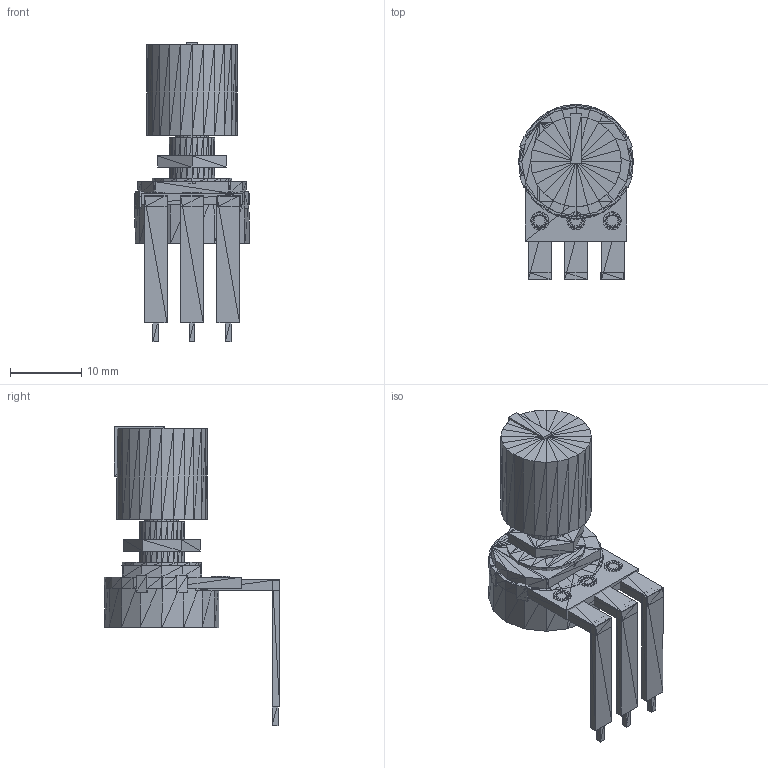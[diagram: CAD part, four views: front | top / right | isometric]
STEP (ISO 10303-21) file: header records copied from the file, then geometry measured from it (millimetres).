
FILE_DESCRIPTION(('HOOPS Exchange Step'),'2;1');
FILE_NAME('C:\Users\paulw\AppData\Local\Temp\Alibre Design\27.0.1.27039\export-8F1B9C42-BA5F-4AEF-81CE-5F43D397E15A.stp','2025-08-21T17:19:29+17:00',('paulw'),('Alibre'),'HOOPS Exchange 2023.0','Alibre','Unknown authorisation');
FILE_SCHEMA( ('AP242_MANAGED_MODEL_BASED_3D_ENGINEERING_MIM_LF {1 0 10303 442 1 1 4 }') );
Length unit declared in the file: inch
Products named in the file (27): PMTR16MM2_2; PMTR16MM2_3; PMTR16MM2_4; PMTR16MM2_5; PMTR16MM2_6; PMTR16MM2_7; PMTR16MM2_8; PMTR16MM2_9; PMTR16MM2_10; PMTR16MM2_11; PMTR16MM2_12; PMTR16MM2_13; PMTR16MM2_14; PMTR16MM2_15; PMTR16MM2_16; PMTR16MM2_17; PMTR16MM2_18; PMTR16MM2_19; PMTR16MM2_20; PMTR16MM2_21; PMTR16MM2_22; PMTR16MM2_23; PMTR16MM2_24; PMTR16MM2_25; PMTR16MM2_26; PMTR16MM2_27; PMTR16MM2
Assembly tree (26 placements, depth 2):
  PMTR16MM2
    PMTR16MM2_2
    PMTR16MM2_3
    PMTR16MM2_4
    PMTR16MM2_5
    PMTR16MM2_6
    PMTR16MM2_7
    PMTR16MM2_8
    PMTR16MM2_9
    PMTR16MM2_10
    PMTR16MM2_11
    PMTR16MM2_12
    PMTR16MM2_13
    PMTR16MM2_14
    PMTR16MM2_15
    PMTR16MM2_16
    PMTR16MM2_17
    PMTR16MM2_18
    PMTR16MM2_19
    PMTR16MM2_20
    PMTR16MM2_21
    PMTR16MM2_22
    PMTR16MM2_23
    PMTR16MM2_24
    PMTR16MM2_25
    PMTR16MM2_26
    PMTR16MM2_27
Bounding box: 16.13 x 24.57 x 41.93 mm (x, y, z)
Volume: 172.1 mm3; surface area: 9317 mm2
Topology: 3 solids, 2631 shells, 2664 faces, 3753 edges, 2829 vertices
Faces by surface type: plane 2664
Entity records: 57143 total; most frequent: CARTESIAN_POINT 9300, DIRECTION 9189, ORIENTED_EDGE 7992, VECTOR 3753, LINE 3753, EDGE_CURVE 3753, VERTEX_POINT 2829, AXIS2_PLACEMENT_3D 2718
